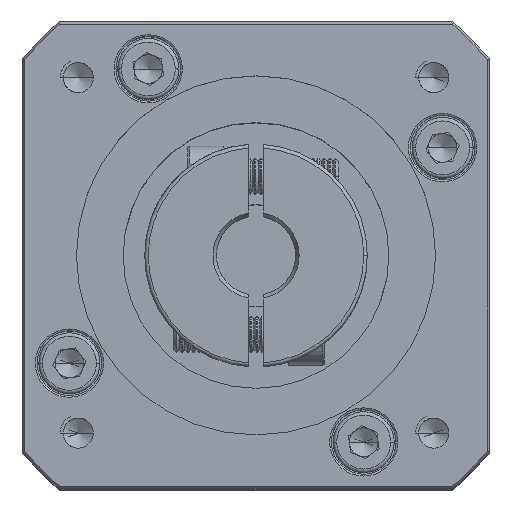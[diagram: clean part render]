
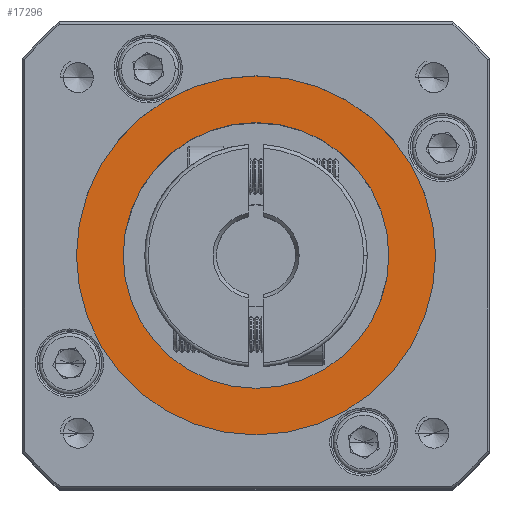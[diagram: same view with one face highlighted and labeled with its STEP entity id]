
A CAD part, top view. The second image highlights one B-rep face of the part: STEP entity #17296.
In plain terms, the highlighted planar face has unit normal (0, 0, 1).
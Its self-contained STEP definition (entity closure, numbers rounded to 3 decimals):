
#5656 = DIRECTION ( 'NONE',  ( 0., 0., -1. ) ) ;
#6540 = AXIS2_PLACEMENT_3D ( 'NONE', #53701, #5656, #61696 ) ;
#17296 = ADVANCED_FACE ( 'NONE', ( #59416, #61880 ), #42697, .T. ) ;
#22677 = CARTESIAN_POINT ( 'NONE',  ( -45.559, 38.277, 30.705 ) ) ;
#26772 = DIRECTION ( 'NONE',  ( 0., 0., 1. ) ) ;
#27778 = EDGE_CURVE ( 'NONE', #81641, #80001, #29175, .T. ) ;
#29175 = CIRCLE ( 'NONE', #6540, 18.5 ) ;
#31269 = AXIS2_PLACEMENT_3D ( 'NONE', #83557, #35872, #91518 ) ;
#35788 = AXIS2_PLACEMENT_3D ( 'NONE', #46757, #102203, #54808 ) ;
#35872 = DIRECTION ( 'NONE',  ( 0., 0., 1. ) ) ;
#38605 = EDGE_CURVE ( 'NONE', #81738, #79003, #88945, .T. ) ;
#41198 = EDGE_CURVE ( 'NONE', #80001, #81641, #59919, .T. ) ;
#42155 = EDGE_CURVE ( 'NONE', #79003, #81738, #90615, .T. ) ;
#42697 = PLANE ( 'NONE',  #60964 ) ;
#43377 = DIRECTION ( 'NONE',  ( 0., 0., -1. ) ) ;
#45939 = CARTESIAN_POINT ( 'NONE',  ( -89.059, 38.277, 30.705 ) ) ;
#46757 = CARTESIAN_POINT ( 'NONE',  ( -70.559, 38.277, 30.705 ) ) ;
#53701 = CARTESIAN_POINT ( 'NONE',  ( -70.559, 38.277, 30.705 ) ) ;
#54808 = DIRECTION ( 'NONE',  ( 1., 0., 0. ) ) ;
#57801 = EDGE_LOOP ( 'NONE', ( #73724, #74356 ) ) ;
#59416 = FACE_OUTER_BOUND ( 'NONE', #57801, .T. ) ;
#59919 = CIRCLE ( 'NONE', #95607, 18.5 ) ;
#60964 = AXIS2_PLACEMENT_3D ( 'NONE', #74649, #26772, #82638 ) ;
#61696 = DIRECTION ( 'NONE',  ( 1., 0., 0. ) ) ;
#61880 = FACE_BOUND ( 'NONE', #64210, .T. ) ;
#64210 = EDGE_LOOP ( 'NONE', ( #74548, #76237 ) ) ;
#70805 = CARTESIAN_POINT ( 'NONE',  ( -95.559, 38.277, 30.705 ) ) ;
#73724 = ORIENTED_EDGE ( 'NONE', *, *, #38605, .T. ) ;
#74356 = ORIENTED_EDGE ( 'NONE', *, *, #42155, .T. ) ;
#74548 = ORIENTED_EDGE ( 'NONE', *, *, #41198, .T. ) ;
#74649 = CARTESIAN_POINT ( 'NONE',  ( -70.559, 38.277, 30.705 ) ) ;
#76237 = ORIENTED_EDGE ( 'NONE', *, *, #27778, .T. ) ;
#76884 = CARTESIAN_POINT ( 'NONE',  ( -52.059, 38.277, 30.705 ) ) ;
#79003 = VERTEX_POINT ( 'NONE', #70805 ) ;
#80001 = VERTEX_POINT ( 'NONE', #76884 ) ;
#81641 = VERTEX_POINT ( 'NONE', #45939 ) ;
#81738 = VERTEX_POINT ( 'NONE', #22677 ) ;
#82638 = DIRECTION ( 'NONE',  ( 1., 0., 0. ) ) ;
#83557 = CARTESIAN_POINT ( 'NONE',  ( -70.559, 38.277, 30.705 ) ) ;
#88945 = CIRCLE ( 'NONE', #31269, 25. ) ;
#90615 = CIRCLE ( 'NONE', #35788, 25. ) ;
#90910 = CARTESIAN_POINT ( 'NONE',  ( -70.559, 38.277, 30.705 ) ) ;
#91518 = DIRECTION ( 'NONE',  ( 1., 0., 0. ) ) ;
#95607 = AXIS2_PLACEMENT_3D ( 'NONE', #90910, #43377, #98851 ) ;
#98851 = DIRECTION ( 'NONE',  ( 1., 0., 0. ) ) ;
#102203 = DIRECTION ( 'NONE',  ( 0., 0., 1. ) ) ;
